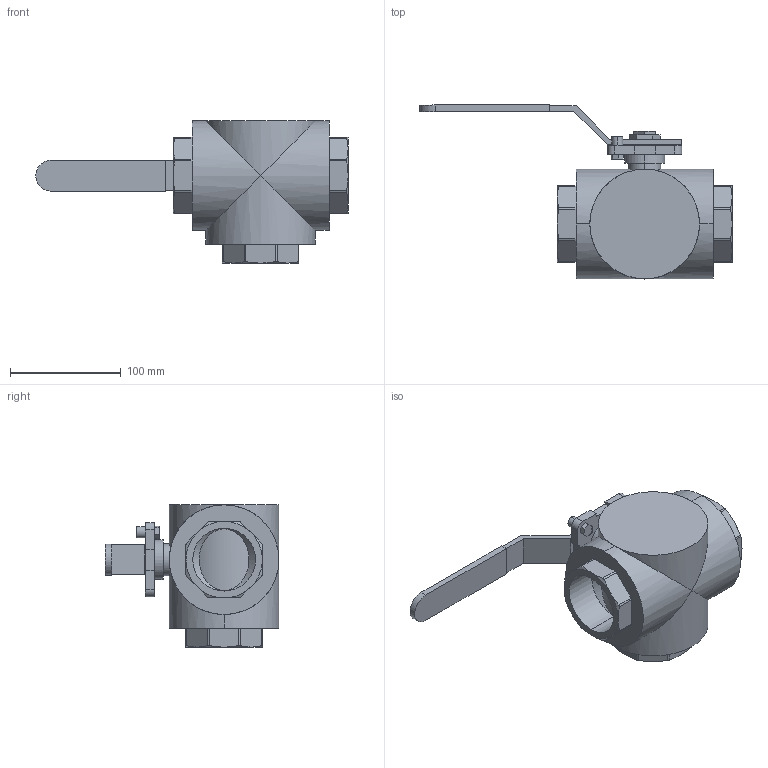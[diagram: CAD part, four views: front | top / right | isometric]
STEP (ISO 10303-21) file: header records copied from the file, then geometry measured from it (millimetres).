
FILE_DESCRIPTION (( 'STEP AP203' ), '1' );
FILE_NAME ('04.622I050IFVPB0.STEP', '2018-10-05T14:08:29', ( '' ), ( '' ), 'SwSTEP 2.0', 'SolidWorks 2014', '' );
FILE_SCHEMA (( 'CONFIG_CONTROL_DESIGN' ));
Length unit declared in the file: millimetre
Products named in the file (1): 04.622I050IFVPB0
Bounding box: 282 x 157 x 128.5 mm (x, y, z)
Volume: 1215666.7 mm3; surface area: 121161 mm2
Topology: 1 solids, 1 shells, 199 faces, 509 edges, 325 vertices
Faces by surface type: plane 102, cylinder 67, cone 30
Entity records: 6704 total; most frequent: CARTESIAN_POINT 1804, ORIENTED_EDGE 1018, DIRECTION 983, EDGE_CURVE 509, AXIS2_PLACEMENT_3D 342, VERTEX_POINT 325, VECTOR 299, LINE 299
